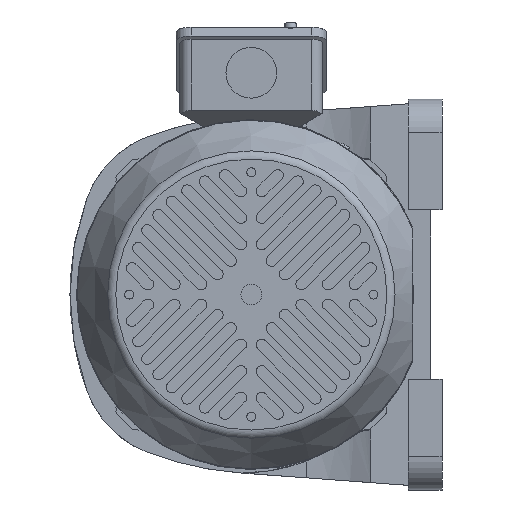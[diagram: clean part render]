
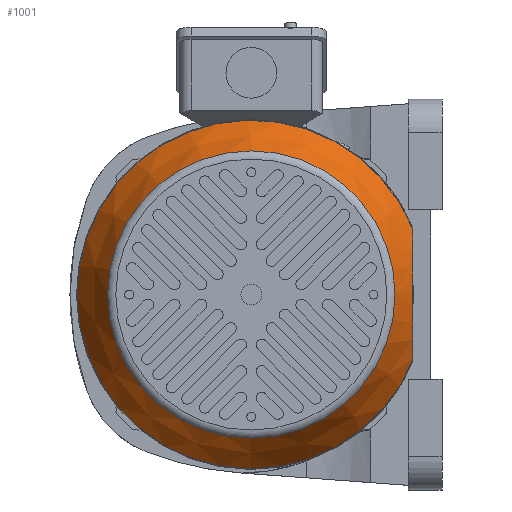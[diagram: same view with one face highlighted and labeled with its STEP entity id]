
A CAD part, left-side view. The second image highlights one B-rep face of the part: STEP entity #1001.
In plain terms, the highlighted conical face has half-angle 29.301 degrees and reference radius 92.744 mm.
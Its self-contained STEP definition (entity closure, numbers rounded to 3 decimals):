
#1001 = ADVANCED_FACE( '', ( #2492, #2493 ), #2494, .T. );
#2492 = FACE_BOUND( '', #4168, .T. );
#2493 = FACE_OUTER_BOUND( '', #4169, .T. );
#2494 = CONICAL_SURFACE( '', #4170, 92.744, 0.511 );
#4168 = EDGE_LOOP( '', ( #9926 ) );
#4169 = EDGE_LOOP( '', ( #9927, #9928 ) );
#4170 = AXIS2_PLACEMENT_3D( '', #9929, #9930, #9931 );
#9926 = ORIENTED_EDGE( '', *, *, #12701, .T. );
#9927 = ORIENTED_EDGE( '', *, *, #12631, .F. );
#9928 = ORIENTED_EDGE( '', *, *, #12630, .F. );
#9929 = CARTESIAN_POINT( '', ( -58.956, 0., 0. ) );
#9930 = DIRECTION( '', ( 1., 0., 0. ) );
#9931 = DIRECTION( '', ( 0., 0., -1. ) );
#12630 = EDGE_CURVE( '', #15890, #15888, #15892, .T. );
#12631 = EDGE_CURVE( '', #15888, #15890, #15893, .F. );
#12701 = EDGE_CURVE( '', #15996, #15996, #15997, .T. );
#15888 = VERTEX_POINT( '', #21078 );
#15890 = VERTEX_POINT( '', #21089 );
#15892 = CIRCLE( '', #21098, 92.744 );
#15893 = B_SPLINE_CURVE_WITH_KNOTS( '', 3, ( #21099, #21100, #21101, #21102, #21103, #21104, #21105, #21106, #21107, #21108, #21109, #21110, #21111, #21112, #21113, #21114, #21115, #21116, #21117, #21118, #21119, #21120, #21121, #21122, #21123, #21124, #21125, #21126, #21127, #21128 ), .UNSPECIFIED., .F., .F., ( 4, 2, 2, 2, 2, 2, 2, 2, 2, 2, 2, 2, 2, 2, 4 ), ( 0.032, 0.036, 0.041, 0.05, 0.06, 0.064, 0.069, 0.078, 0.08, 0.083, 0.087, 0.097, 0.099, 0.101, 0.106 ), .UNSPECIFIED. );
#15996 = VERTEX_POINT( '', #21283 );
#15997 = CIRCLE( '', #21284, 76.475 );
#21078 = CARTESIAN_POINT( '', ( -58.956, -86., 34.72 ) );
#21089 = CARTESIAN_POINT( '', ( -58.956, -86., -34.72 ) );
#21098 = AXIS2_PLACEMENT_3D( '', #24988, #24989, #24990 );
#21099 = CARTESIAN_POINT( '', ( -58.956, -86., -34.72 ) );
#21100 = CARTESIAN_POINT( '', ( -59.814, -86., -33.434 ) );
#21101 = CARTESIAN_POINT( '', ( -60.645, -86., -32.127 ) );
#21102 = CARTESIAN_POINT( '', ( -62.245, -86., -29.464 ) );
#21103 = CARTESIAN_POINT( '', ( -63.014, -86., -28.106 ) );
#21104 = CARTESIAN_POINT( '', ( -65.208, -86., -23.957 ) );
#21105 = CARTESIAN_POINT( '', ( -66.498, -86., -21.127 ) );
#21106 = CARTESIAN_POINT( '', ( -68.646, -86., -15.311 ) );
#21107 = CARTESIAN_POINT( '', ( -69.504, -86., -12.324 ) );
#21108 = CARTESIAN_POINT( '', ( -70.385, -86., -7.696 ) );
#21109 = CARTESIAN_POINT( '', ( -70.606, -86., -6.152 ) );
#21110 = CARTESIAN_POINT( '', ( -70.901, -86., -3.067 ) );
#21111 = CARTESIAN_POINT( '', ( -70.974, -86., -1.525 ) );
#21112 = CARTESIAN_POINT( '', ( -70.973, -86., 3.098 ) );
#21113 = CARTESIAN_POINT( '', ( -70.675, -86., 6.178 ) );
#21114 = CARTESIAN_POINT( '', ( -69.942, -86., 10.024 ) );
#21115 = CARTESIAN_POINT( '', ( -69.777, -86., 10.793 ) );
#21116 = CARTESIAN_POINT( '', ( -69.416, -86., 12.314 ) );
#21117 = CARTESIAN_POINT( '', ( -69.22, -86., 13.068 ) );
#21118 = CARTESIAN_POINT( '', ( -68.586, -86., 15.313 ) );
#21119 = CARTESIAN_POINT( '', ( -68.102, -86., 16.785 ) );
#21120 = CARTESIAN_POINT( '', ( -66.493, -86., 21.14 ) );
#21121 = CARTESIAN_POINT( '', ( -65.207, -86., 23.958 ) );
#21122 = CARTESIAN_POINT( '', ( -63.389, -86., 27.398 ) );
#21123 = CARTESIAN_POINT( '', ( -63.015, -86., 28.082 ) );
#21124 = CARTESIAN_POINT( '', ( -62.246, -86., 29.441 ) );
#21125 = CARTESIAN_POINT( '', ( -61.852, -86., 30.117 ) );
#21126 = CARTESIAN_POINT( '', ( -60.648, -86., 32.122 ) );
#21127 = CARTESIAN_POINT( '', ( -59.815, -86., 33.432 ) );
#21128 = CARTESIAN_POINT( '', ( -58.956, -86., 34.72 ) );
#21283 = CARTESIAN_POINT( '', ( -87.947, 0., -76.475 ) );
#21284 = AXIS2_PLACEMENT_3D( '', #25094, #25095, #25096 );
#24988 = CARTESIAN_POINT( '', ( -58.956, 0., 0. ) );
#24989 = DIRECTION( '', ( 1., 0., 0. ) );
#24990 = DIRECTION( '', ( 0., 0., -1. ) );
#25094 = CARTESIAN_POINT( '', ( -87.947, 0., 0. ) );
#25095 = DIRECTION( '', ( 1., 0., 0. ) );
#25096 = DIRECTION( '', ( 0., 0., -1. ) );
